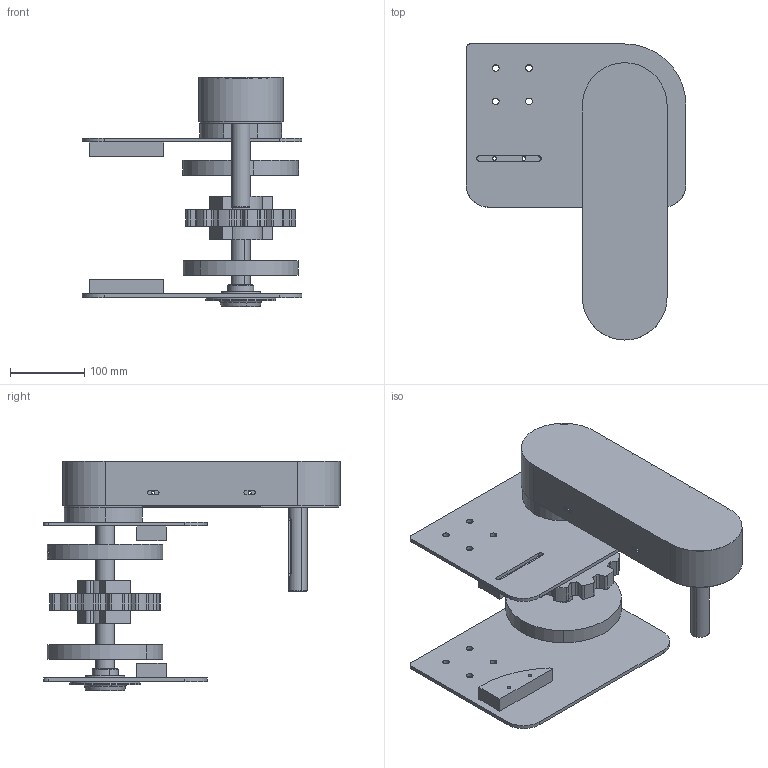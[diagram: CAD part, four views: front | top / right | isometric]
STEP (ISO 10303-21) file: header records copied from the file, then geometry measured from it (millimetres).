
FILE_DESCRIPTION (( 'STEP AP203' ), '1' );
FILE_NAME ('2000.750.363.STEP', '2012-12-04T12:30:04', ( 'Alusic' ), ( 'Alusic' ), 'SwSTEP 2.0', 'SolidWorks 2011', '' );
FILE_SCHEMA (( 'CONFIG_CONTROL_DESIGN' ));
Length unit declared in the file: millimetre
Products named in the file (1): 2000.750.363
Bounding box: 296.5 x 399.5 x 309 mm (x, y, z)
Volume: 2751310.2 mm3; surface area: 841998.3 mm2
Topology: 18 solids, 18 shells, 731 faces, 1988 edges, 1308 vertices
Faces by surface type: cylinder 395, plane 294, cone 16, torus 16, sphere 10
Entity records: 24070 total; most frequent: CARTESIAN_POINT 4610, DIRECTION 4237, ORIENTED_EDGE 3938, EDGE_CURVE 1969, AXIS2_PLACEMENT_3D 1572, VERTEX_POINT 1301, VECTOR 1093, LINE 1093
